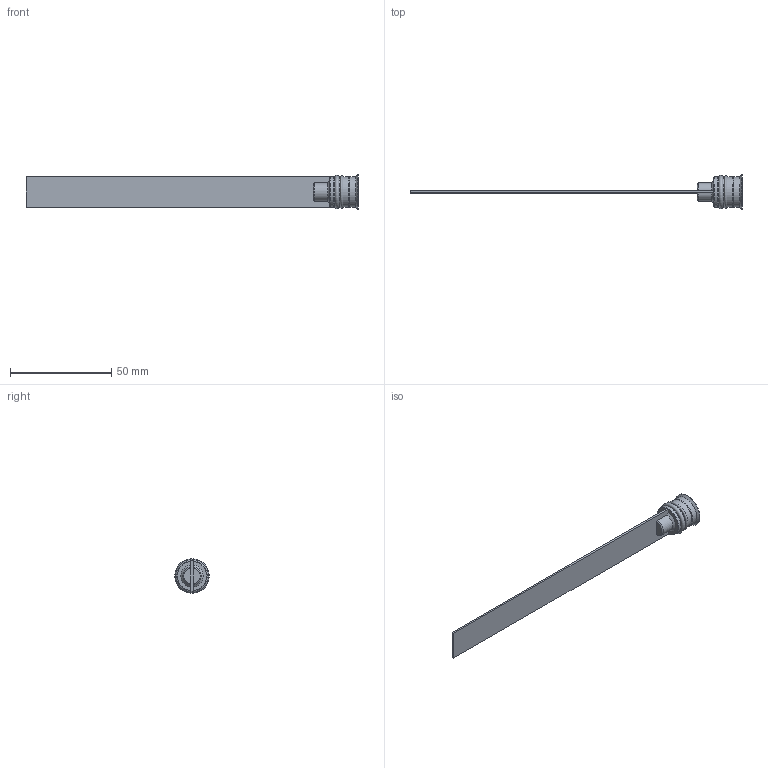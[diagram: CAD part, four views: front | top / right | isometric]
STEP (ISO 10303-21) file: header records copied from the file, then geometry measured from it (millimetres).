
FILE_DESCRIPTION( ( 'STEP AP214' ), '1' );
FILE_NAME( 'p:/temp/worker_238/temp/exporttempdir_3288_212_ehSBN/format_0/RL-15Fx150.stp', '2021-02-05T19:44:53', ( 'License CC BY-ND 4.0' ), ( 'CADENAS' ), ' ', 'PARTsolutions', ' ' );
FILE_SCHEMA( ( 'AUTOMOTIVE_DESIGN { 1 0 10303 214 1 1 1 1 }' ) );
Length unit declared in the file: millimetre
Products named in the file (1): _RL-15Fx150
Bounding box: 164 x 17 x 17 mm (x, y, z)
Volume: 4999.3 mm3; surface area: 6457.2 mm2
Topology: 1 solids, 1 shells, 52 faces, 127 edges, 80 vertices
Faces by surface type: plane 29, cone 10, cylinder 10, torus 3
Full cylindrical faces by diameter (mm): 10 x1, 15 x4, 17 x1
Entity records: 1886 total; most frequent: CARTESIAN_POINT 291, DIRECTION 236, ORIENTED_EDGE 224, EDGE_CURVE 112, AXIS2_PLACEMENT_3D 85, VERTEX_POINT 80, EDGE_LOOP 68, LINE 66
